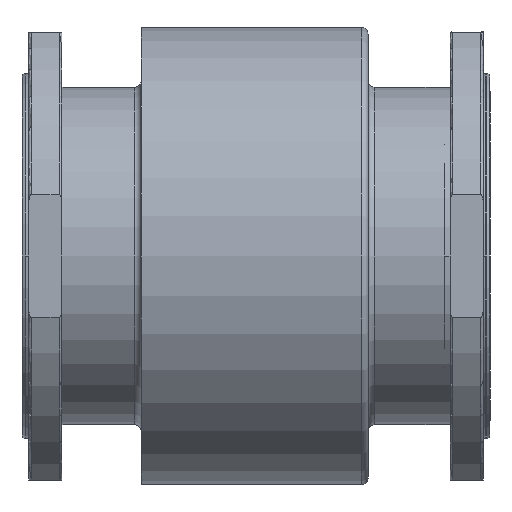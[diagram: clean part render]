
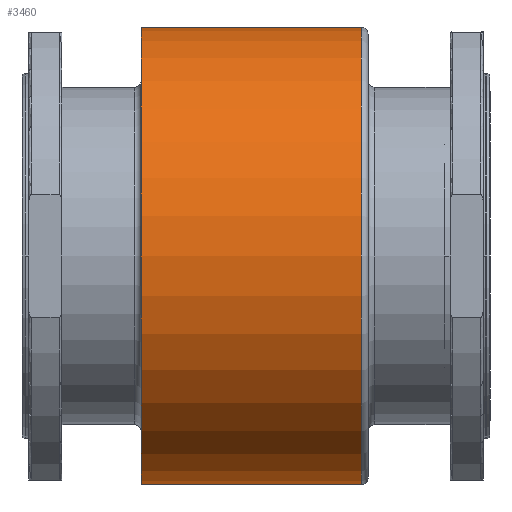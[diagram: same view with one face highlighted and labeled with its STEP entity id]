
A CAD part, front view. The second image highlights one B-rep face of the part: STEP entity #3460.
In plain terms, the highlighted cylindrical face has radius 171.5 mm (diameter 343 mm), a partial arc.
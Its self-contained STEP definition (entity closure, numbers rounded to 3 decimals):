
#9 = CARTESIAN_POINT ( 'NONE',  ( -86., 0., -171.5 ) ) ;
#101 = DIRECTION ( 'NONE',  ( -1., 0., 0. ) ) ;
#313 = FACE_OUTER_BOUND ( 'NONE', #4172, .T. ) ;
#383 = CARTESIAN_POINT ( 'NONE',  ( -86., 0., -171.5 ) ) ;
#833 = ORIENTED_EDGE ( 'NONE', *, *, #889, .T. ) ;
#889 = EDGE_CURVE ( 'NONE', #7699, #3804, #7420, .T. ) ;
#1507 = LINE ( 'NONE', #383, #4804 ) ;
#1760 = VECTOR ( 'NONE', #5998, 1000. ) ;
#1908 = DIRECTION ( 'NONE',  ( 1., 0., 0. ) ) ;
#1928 = CARTESIAN_POINT ( 'NONE',  ( -86., 0., 0. ) ) ;
#2365 = AXIS2_PLACEMENT_3D ( 'NONE', #3188, #8543, #4828 ) ;
#2533 = ORIENTED_EDGE ( 'NONE', *, *, #6195, .T. ) ;
#2674 = CARTESIAN_POINT ( 'NONE',  ( 79., 0., -171.5 ) ) ;
#3188 = CARTESIAN_POINT ( 'NONE',  ( -86., 0., 0. ) ) ;
#3460 = ADVANCED_FACE ( 'NONE', ( #313 ), #5051, .T. ) ;
#3606 = DIRECTION ( 'NONE',  ( 0., 0., -1. ) ) ;
#3804 = VERTEX_POINT ( 'NONE', #9 ) ;
#4172 = EDGE_LOOP ( 'NONE', ( #9386, #833, #6508, #2533 ) ) ;
#4289 = AXIS2_PLACEMENT_3D ( 'NONE', #1928, #8800, #3606 ) ;
#4316 = EDGE_CURVE ( 'NONE', #7699, #4920, #8558, .T. ) ;
#4557 = CARTESIAN_POINT ( 'NONE',  ( 79., 0., 0. ) ) ;
#4793 = CARTESIAN_POINT ( 'NONE',  ( -86., 0., 171.5 ) ) ;
#4804 = VECTOR ( 'NONE', #1908, 1000. ) ;
#4828 = DIRECTION ( 'NONE',  ( 0., 0., -1. ) ) ;
#4920 = VERTEX_POINT ( 'NONE', #6630 ) ;
#5051 = CYLINDRICAL_SURFACE ( 'NONE', #4289, 171.5 ) ;
#5220 = CARTESIAN_POINT ( 'NONE',  ( -86., 0., 171.5 ) ) ;
#5249 = DIRECTION ( 'NONE',  ( 0., 0., -1. ) ) ;
#5998 = DIRECTION ( 'NONE',  ( 1., 0., 0. ) ) ;
#6195 = EDGE_CURVE ( 'NONE', #7834, #4920, #8551, .T. ) ;
#6508 = ORIENTED_EDGE ( 'NONE', *, *, #6570, .T. ) ;
#6570 = EDGE_CURVE ( 'NONE', #3804, #7834, #1507, .T. ) ;
#6630 = CARTESIAN_POINT ( 'NONE',  ( 79., 0., 171.5 ) ) ;
#7420 = CIRCLE ( 'NONE', #2365, 171.5 ) ;
#7699 = VERTEX_POINT ( 'NONE', #4793 ) ;
#7834 = VERTEX_POINT ( 'NONE', #2674 ) ;
#8401 = AXIS2_PLACEMENT_3D ( 'NONE', #4557, #101, #5249 ) ;
#8543 = DIRECTION ( 'NONE',  ( 1., 0., 0. ) ) ;
#8551 = CIRCLE ( 'NONE', #8401, 171.5 ) ;
#8558 = LINE ( 'NONE', #5220, #1760 ) ;
#8800 = DIRECTION ( 'NONE',  ( 1., 0., 0. ) ) ;
#9386 = ORIENTED_EDGE ( 'NONE', *, *, #4316, .F. ) ;
